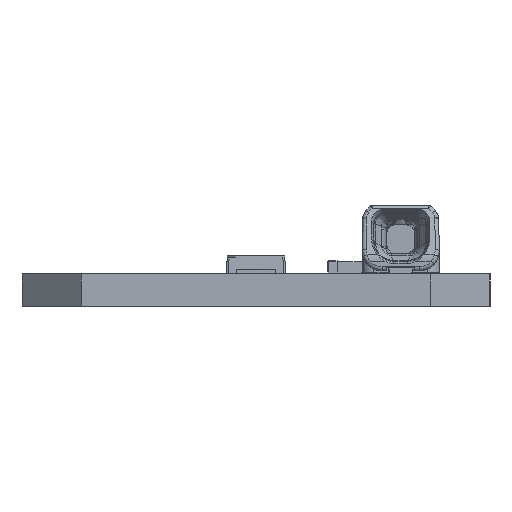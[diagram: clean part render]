
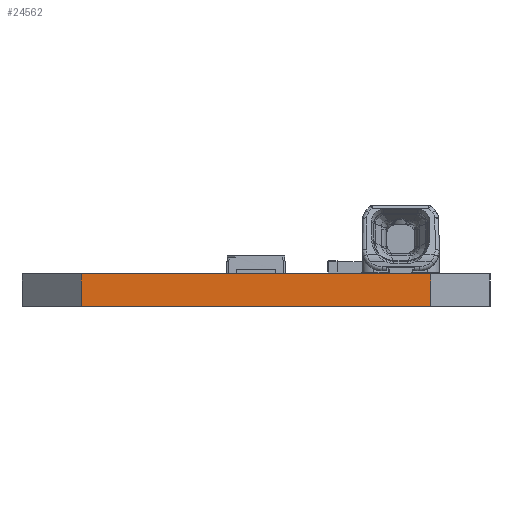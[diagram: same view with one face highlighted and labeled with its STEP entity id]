
A CAD part, left-side view. The second image highlights one B-rep face of the part: STEP entity #24562.
In plain terms, the highlighted planar face has unit normal (-1, 0, 0).
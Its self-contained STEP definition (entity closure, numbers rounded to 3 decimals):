
#563=DIRECTION('',(0.,0.,1.));
#564=VECTOR('',#563,1.65);
#565=CARTESIAN_POINT('',(-69.5,8.8,0.));
#566=LINE('',#565,#564);
#570=DIRECTION('',(0.,-1.,0.));
#571=VECTOR('',#570,17.6);
#572=CARTESIAN_POINT('',(-69.5,8.8,1.65));
#573=LINE('',#572,#571);
#577=DIRECTION('',(0.,0.,1.));
#578=VECTOR('',#577,1.65);
#579=CARTESIAN_POINT('',(-69.5,-8.8,0.));
#580=LINE('',#579,#578);
#691=DIRECTION('',(0.,-1.,0.));
#692=VECTOR('',#691,17.6);
#693=CARTESIAN_POINT('',(-69.5,8.8,0.));
#694=LINE('',#693,#692);
#20632=CARTESIAN_POINT('',(-69.5,-8.8,1.65));
#20633=VERTEX_POINT('',#20632);
#20634=CARTESIAN_POINT('',(-69.5,8.8,1.65));
#20635=VERTEX_POINT('',#20634);
#21011=CARTESIAN_POINT('',(-69.5,8.8,0.));
#21012=VERTEX_POINT('',#21011);
#21013=CARTESIAN_POINT('',(-69.5,-8.8,0.));
#21014=VERTEX_POINT('',#21013);
#24549=CARTESIAN_POINT('',(-69.5,0.,0.825));
#24550=DIRECTION('',(1.,0.,0.));
#24551=DIRECTION('',(0.,0.,1.));
#24552=AXIS2_PLACEMENT_3D('',#24549,#24550,#24551);
#24553=PLANE('',#24552);
#24555=ORIENTED_EDGE('',*,*,#24554,.F.);
#24557=ORIENTED_EDGE('',*,*,#24556,.F.);
#24558=ORIENTED_EDGE('',*,*,#24533,.T.);
#24559=ORIENTED_EDGE('',*,*,#23728,.T.);
#24560=EDGE_LOOP('',(#24555,#24557,#24558,#24559));
#24561=FACE_OUTER_BOUND('',#24560,.F.);
#23728=EDGE_CURVE('',#20635,#20633,#573,.T.);
#24533=EDGE_CURVE('',#21012,#20635,#566,.T.);
#24554=EDGE_CURVE('',#21014,#20633,#580,.T.);
#24556=EDGE_CURVE('',#21012,#21014,#694,.T.);
#24562=ADVANCED_FACE('',(#24561),#24553,.F.);
